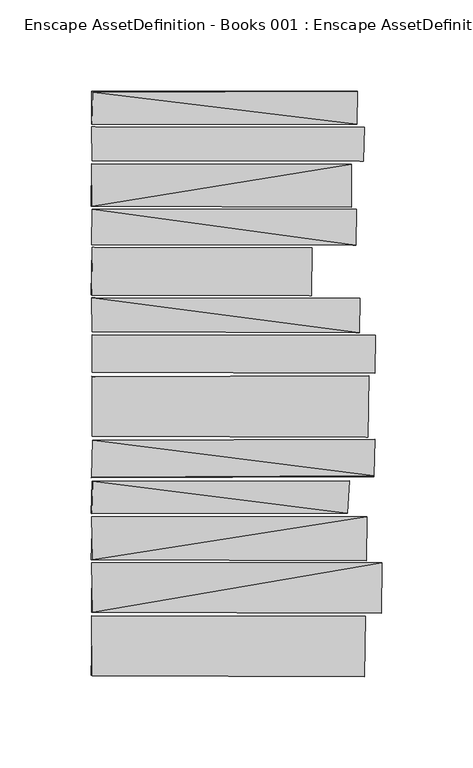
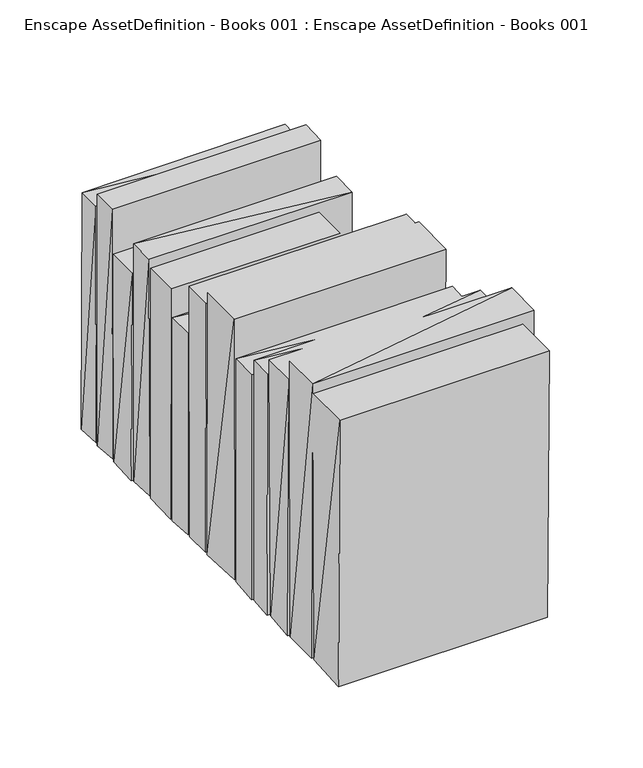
"""IFC4 building model written with IfcOpenShell, lengths in millimetres: geographic element geometry, Enscape AssetDefinition - Books 001 : Enscape AssetDefinition - Books 001."""

from ifc_helpers import new_model, si_unit, origin, place, context, project, spatial, triangles, source, transform, mapped, element, save


def enscape_assetdefinition_books_001_enscape_assetdefinition_fd846f05(model_context):
    return source(origin(), model_context, "Body", "Tessellation", [
        triangles([(147.8249704, 28.1895221, 153.7721364), (0.8481661, 28.5916051, 153.4960632), (147.3328765, 28.6036047, 0.3770739), (0.8361639, 28.5916051, 0.6931359), (0.4740929, 47.4433023, 153.8061278), (0.4320847, 47.1892481, 0.3580702), (148.0170008, 47.1462365, 153.8231508), (147.004817, 46.6791457, 0.3200627), (143.1920501, 97.1170281, 157.4838648), (0.4960973, 120.9206987, 157.4108497), (0.9221808, 97.6861431, 157.0577826), (0.6621298, 120.3955945, 0.5491076), (0.1870367, 97.6861431, 0.1550304), (142.7309681, 97.7681693, 0.3690723), (143.4271011, 120.7396596, 157.4098505), (142.6019335, 120.2385547, 0.2650519), (155.5714816, -50.4278858, 170.1473361), (155.554495, -50.9649896, 0.5391057), (156.3126245, -30.4969757, 170.4023895), (155.5754784, -30.9850727, 0.5811139), (0.5211021, -51.2380425, 170.4194125), (1.1922337, -30.8620493, 169.8632873), (1.2522455, -30.8620493, 1.0382035), (0.3770739, -51.5751041, 0.3130614), (159.8223304, -125.9756954, 208.8479171), (0.66313, -125.3655673, 0.5501078), (160.1363919, -98.1222357, 208.83391), (159.1492065, -125.3285692, 0.4970975), (159.1881939, -98.7183475, 0.8321631), (1.2192389, -125.3655673, 208.3898419), (0.5651108, -98.0542166, 208.9309426), (0.71414, -98.5943271, 0.5911158), (0.7481466, 26.3261615, 0.6201216), (0.7531476, 26.9922886, 189.9392239), (155.6385015, 26.2301395, 0.6501274), (0.8421651, 6.5202779, 0.6981368), (156.4836715, 26.7382412, 190.0612368), (156.2216054, 5.9871732, 190.1142677), (155.6034927, 6.537281, 0.6171209), (0.9171798, 6.3432424, 189.8042031), (150.0143989, -159.821313, 0.4370856), (150.5684984, -160.8605301, 202.4416766), (150.9645862, -127.5860077, 202.4116639), (0.8641694, -160.1963991, 201.9755895), (1.0041968, -127.9190815, 1.0041968), (0.1660325, -159.9843481, 0.1660325), (149.6473246, -128.3541658, 0.352069), (0.5641106, -127.3169562, 202.2756439), (151.6327231, -28.4005671, 0.342067), (152.3988736, -29.1587126, 199.2000322), (152.829952, 4.5568928, 199.1450392), (0.7521474, 3.9567753, 198.9860009), (0.8301627, -28.6856219, 198.9209976), (0.648127, 4.2758379, 0.5371053), (150.9375893, 4.0627959, 0.5541086), (1.265248, -28.4285723, 1.0492057), (1.1642282, 122.6880509, 0.9651892), (149.5643083, 122.7860645, 0.347068), (150.4084791, 140.981629, 190.8484162), (149.9303833, 122.1879542, 190.6803669), (0.8731711, 122.4850109, 190.459323), (149.3222718, 140.4815324, 0.5371053), (0.505099, 140.5365435, 0.4190821), (0.653128, 141.1156506, 190.6423605), (0.5361051, 160.8405277, 0.4450873), (0.4960973, 142.734974, 180.5353829), (1.076211, 160.2974104, 180.0542895), (146.2106521, 142.5069265, 180.4283764), (146.6507506, 160.7135005, 180.6314163), (145.3214713, 160.3634129, 0.4230829), (145.8405893, 142.9940334, 0.3360658), (1.0682093, 142.9820247, 0.8851735), (145.3814967, 76.7830494, 0.342067), (0.4990978, 76.5259975, 180.6954204), (145.9105887, 76.2469357, 180.689407), (144.8694004, 95.5147186, 0.5201019), (146.164643, 95.8637888, 180.8014277), (0.8131594, 96.0518315, 180.4353709), (1.0702098, 76.7700415, 0.8871738), (0.6501274, 95.6657541, 0.5381055), (142.151861, -53.0253926, 183.0898963), (141.1826796, -70.9449065, 182.7158094), (141.3587045, -70.9659081, 0.5131006), (141.1956694, -53.4224704, 0.3370661), (0.8791723, -53.375462, 0.7281427), (0.2170425, -70.9809145, 0.1800353), (0.4860953, -71.2439662, 182.993863), (1.1062168, -53.375462, 182.4797773), (150.9375893, -73.6104233, 0.6641301), (0.5161011, -72.9232968, 195.0122246), (0.2310453, -96.5609211, 0.1910374), (1.1542263, -73.4703974, 0.9561874), (151.5197031, -97.0690205, 194.9221865), (151.7947499, -73.0453143, 194.9262015), (150.8905718, -96.5429171, 0.6231222), (1.1272209, -96.5609211, 194.5051153), (0.4870955, 48.7415516, 174.9222808), (0.6961364, 74.4285874, 0.5771131), (120.8906951, 74.3015648, 0.5981172), (120.8486828, 48.9906007, 0.5601098), (0.2070406, 48.9745997, 0.1720337), (121.6368341, 74.8056629, 174.891287), (121.4138009, 48.4865026, 174.9012792), (0.7781525, 75.0147026, 174.6802352)], [[99, 104, 102], [99, 98, 104], [98, 97, 104], [98, 101, 97], [103, 104, 97], [103, 102, 104], [100, 102, 103], [100, 99, 102], [98, 100, 101], [98, 99, 100], [100, 97, 101], [100, 103, 97], [95, 96, 91], [95, 93, 96], [96, 93, 94], [95, 94, 93], [96, 94, 90], [92, 96, 90], [92, 91, 96], [92, 95, 91], [92, 89, 95], [95, 89, 94], [89, 90, 94], [89, 92, 90], [84, 88, 81], [84, 85, 88], [87, 85, 86], [87, 88, 85], [88, 82, 81], [88, 87, 82], [85, 83, 86], [85, 84, 83], [81, 83, 84], [81, 82, 83], [83, 87, 86], [83, 82, 87], [76, 78, 77], [76, 80, 78], [76, 79, 80], [80, 74, 78], [80, 79, 74], [75, 78, 74], [75, 77, 78], [76, 77, 75], [76, 73, 79], [76, 75, 73], [73, 74, 79], [73, 75, 74], [71, 68, 66], [71, 66, 72], [68, 71, 70], [70, 71, 72], [68, 70, 69], [68, 67, 66], [68, 69, 67], [65, 66, 67], [65, 72, 66], [70, 72, 65], [65, 69, 70], [65, 67, 69], [62, 64, 59], [62, 63, 64], [57, 63, 62], [63, 61, 64], [63, 57, 61], [60, 64, 61], [60, 59, 64], [58, 59, 60], [58, 62, 59], [57, 62, 58], [58, 61, 57], [58, 60, 61], [55, 52, 51], [55, 54, 52], [55, 56, 54], [53, 54, 56], [53, 52, 54], [50, 52, 53], [50, 51, 52], [49, 51, 50], [49, 55, 51], [55, 49, 56], [49, 53, 56], [49, 50, 53], [47, 48, 43], [47, 45, 48], [47, 46, 45], [44, 45, 46], [44, 48, 45], [44, 43, 48], [44, 42, 43], [41, 43, 42], [41, 47, 43], [47, 41, 46], [41, 44, 46], [41, 42, 44], [39, 40, 36], [39, 38, 40], [40, 38, 37], [39, 37, 38], [40, 37, 34], [33, 40, 34], [33, 36, 40], [35, 36, 33], [35, 39, 36], [39, 35, 37], [35, 34, 37], [35, 33, 34], [32, 27, 29], [32, 31, 27], [32, 30, 31], [30, 27, 31], [30, 25, 27], [27, 28, 29], [27, 25, 28], [32, 26, 30], [29, 26, 32], [29, 28, 26], [26, 25, 30], [26, 28, 25], [22, 20, 23], [22, 19, 20], [20, 24, 23], [21, 23, 24], [21, 22, 23], [17, 22, 21], [17, 19, 22], [20, 18, 24], [19, 18, 20], [19, 17, 18], [18, 21, 24], [18, 17, 21], [10, 16, 12], [10, 15, 16], [12, 16, 14], [14, 16, 15], [12, 14, 13], [12, 11, 10], [12, 13, 11], [11, 15, 10], [11, 9, 15], [14, 15, 9], [9, 13, 14], [9, 11, 13], [5, 8, 6], [5, 7, 8], [8, 4, 6], [2, 6, 4], [2, 5, 6], [1, 5, 2], [1, 7, 5], [3, 7, 1], [3, 8, 7], [8, 3, 4], [3, 2, 4], [3, 1, 2]]),
    ])


if __name__ == "__main__":
    model = new_model("IFC4")
    model_context = context("Model", 3, world=origin())
    ifc_project = project(units=[si_unit("LENGTHUNIT", "METRE", prefix="MILLI")], contexts=[model_context])
    site = spatial("IfcSite", under=ifc_project)
    building = spatial("IfcBuilding", under=site)
    placement = place(None, origin())
    enscape_assetdefinition_books_001_enscape_assetdefinition_shape = enscape_assetdefinition_books_001_enscape_assetdefinition_fd846f05(model_context)
    element("IfcGeographicElement", 1, ObjectType="Enscape AssetDefinition - Books 001 : Enscape AssetDefinition - Books 001", at=placement, inside=building, context=model_context, shape_type="MappedRepresentation", body=[
        mapped(enscape_assetdefinition_books_001_enscape_assetdefinition_shape, transform((0.0, 0.0, 0.0), x_axis=(1.0, 0.0, 0.0), y_axis=(0.0, 1.0, 0.0), z_axis=(0.0, 0.0, 1.0))),
    ])
    save(model, "model.ifc")
